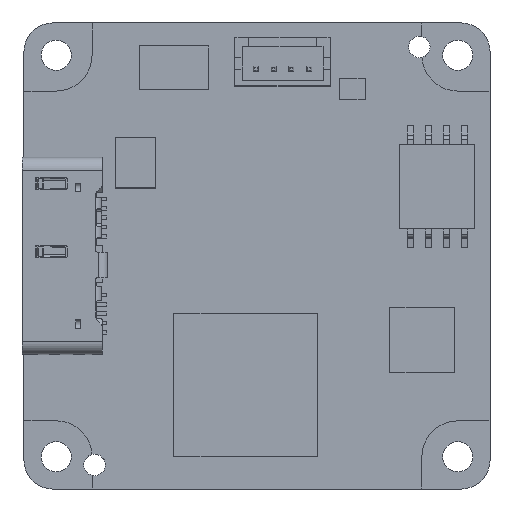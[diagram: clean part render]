
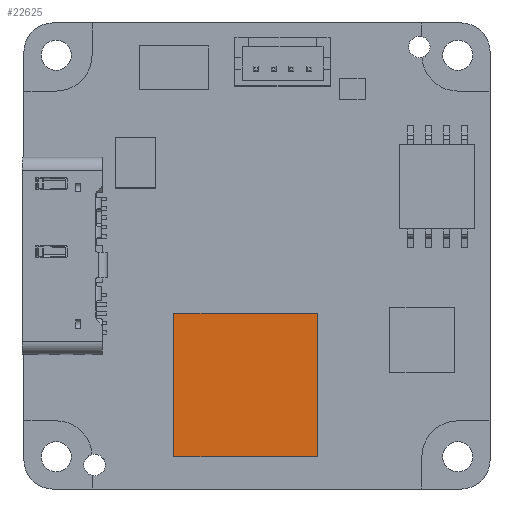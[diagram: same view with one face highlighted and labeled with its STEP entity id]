
A CAD part, top view. The second image highlights one B-rep face of the part: STEP entity #22625.
In plain terms, the highlighted planar face has unit normal (0, 0, 1).
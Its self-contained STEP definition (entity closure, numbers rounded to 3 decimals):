
#1011 = VECTOR ( 'NONE', #3926, 1000. ) ;
#3926 = DIRECTION ( 'NONE',  ( 1., 0., 0. ) ) ;
#4052 = EDGE_CURVE ( 'NONE', #31398, #25708, #27168, .T. ) ;
#6194 = LINE ( 'NONE', #23896, #29344 ) ;
#7625 = ORIENTED_EDGE ( 'NONE', *, *, #4052, .T. ) ;
#7635 = CARTESIAN_POINT ( 'NONE',  ( -14.744, -7.305, 33.599 ) ) ;
#8120 = ORIENTED_EDGE ( 'NONE', *, *, #17019, .T. ) ;
#8494 = DIRECTION ( 'NONE',  ( 0., 0., 1. ) ) ;
#9349 = CARTESIAN_POINT ( 'NONE',  ( -4.744, -7.305, 33.599 ) ) ;
#10137 = VECTOR ( 'NONE', #25288, 1000. ) ;
#10862 = DIRECTION ( 'NONE',  ( 0., -1., 0. ) ) ;
#11376 = CARTESIAN_POINT ( 'NONE',  ( -4.744, -7.305, 33.599 ) ) ;
#12046 = EDGE_CURVE ( 'NONE', #25755, #31398, #27742, .T. ) ;
#12440 = FACE_OUTER_BOUND ( 'NONE', #20971, .T. ) ;
#12765 = CARTESIAN_POINT ( 'NONE',  ( -14.744, -7.305, 33.599 ) ) ;
#13807 = ORIENTED_EDGE ( 'NONE', *, *, #16977, .T. ) ;
#15589 = LINE ( 'NONE', #25206, #10137 ) ;
#16051 = CARTESIAN_POINT ( 'NONE',  ( 297.478, 35.034, 33.599 ) ) ;
#16977 = EDGE_CURVE ( 'NONE', #25708, #20999, #15589, .T. ) ;
#17016 = CARTESIAN_POINT ( 'NONE',  ( -14.744, 2.695, 33.599 ) ) ;
#17019 = EDGE_CURVE ( 'NONE', #20999, #25755, #6194, .T. ) ;
#18519 = PLANE ( 'NONE',  #28975 ) ;
#18706 = ORIENTED_EDGE ( 'NONE', *, *, #12046, .T. ) ;
#20971 = EDGE_LOOP ( 'NONE', ( #13807, #8120, #18706, #7625 ) ) ;
#20999 = VERTEX_POINT ( 'NONE', #24888 ) ;
#21011 = DIRECTION ( 'NONE',  ( 1., 0., 0. ) ) ;
#22625 = ADVANCED_FACE ( 'NONE', ( #12440 ), #18519, .T. ) ;
#23786 = DIRECTION ( 'NONE',  ( -1., 0., 0. ) ) ;
#23896 = CARTESIAN_POINT ( 'NONE',  ( -4.744, 2.695, 33.599 ) ) ;
#24888 = CARTESIAN_POINT ( 'NONE',  ( -4.744, 2.695, 33.599 ) ) ;
#25206 = CARTESIAN_POINT ( 'NONE',  ( -4.744, -7.305, 33.599 ) ) ;
#25288 = DIRECTION ( 'NONE',  ( 0., 1., 0. ) ) ;
#25708 = VERTEX_POINT ( 'NONE', #11376 ) ;
#25755 = VERTEX_POINT ( 'NONE', #17016 ) ;
#27168 = LINE ( 'NONE', #9349, #1011 ) ;
#27742 = LINE ( 'NONE', #12765, #29002 ) ;
#28975 = AXIS2_PLACEMENT_3D ( 'NONE', #16051, #8494, #21011 ) ;
#29002 = VECTOR ( 'NONE', #10862, 1000. ) ;
#29344 = VECTOR ( 'NONE', #23786, 1000. ) ;
#31398 = VERTEX_POINT ( 'NONE', #7635 ) ;
